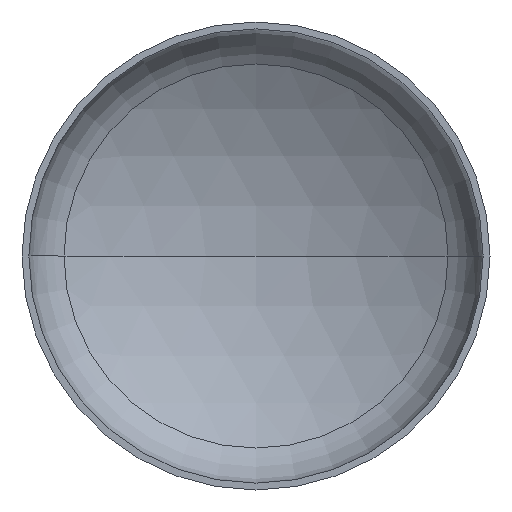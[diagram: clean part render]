
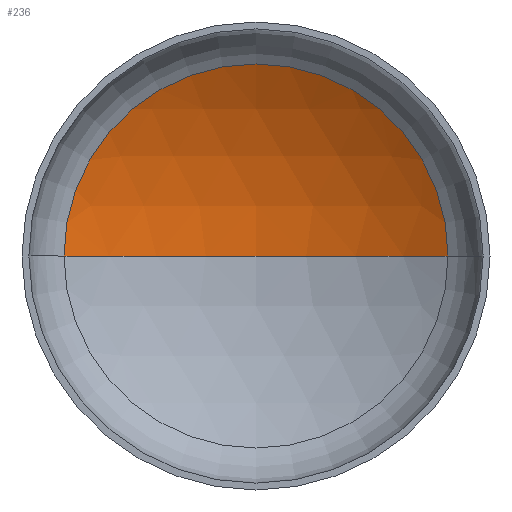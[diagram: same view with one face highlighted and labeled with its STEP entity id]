
A CAD part, front view. The second image highlights one B-rep face of the part: STEP entity #236.
In plain terms, the highlighted spherical face has radius 6400 mm.
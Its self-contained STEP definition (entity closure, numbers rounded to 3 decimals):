
#14 = VERTEX_POINT ( 'NONE', #92 ) ;
#15 = AXIS2_PLACEMENT_3D ( 'NONE', #313, #307, #290 ) ;
#32 = AXIS2_PLACEMENT_3D ( 'NONE', #378, #245, #397 ) ;
#38 = AXIS2_PLACEMENT_3D ( 'NONE', #121, #317, #166 ) ;
#39 = AXIS2_PLACEMENT_3D ( 'NONE', #310, #108, #266 ) ;
#46 = ORIENTED_EDGE ( 'NONE', *, *, #95, .T. ) ;
#60 = EDGE_LOOP ( 'NONE', ( #113, #46, #161 ) ) ;
#84 = FACE_OUTER_BOUND ( 'NONE', #60, .T. ) ;
#87 = VERTEX_POINT ( 'NONE', #253 ) ;
#92 = CARTESIAN_POINT ( 'NONE',  ( 0., 2037.005, 0. ) ) ;
#94 = EDGE_CURVE ( 'NONE', #87, #160, #213, .T. ) ;
#95 = EDGE_CURVE ( 'NONE', #14, #87, #392, .T. ) ;
#98 = EDGE_CURVE ( 'NONE', #14, #160, #205, .T. ) ;
#108 = DIRECTION ( 'NONE',  ( 0., -1., 0. ) ) ;
#113 = ORIENTED_EDGE ( 'NONE', *, *, #98, .F. ) ;
#121 = CARTESIAN_POINT ( 'NONE',  ( 0., -4362.995, 0. ) ) ;
#160 = VERTEX_POINT ( 'NONE', #244 ) ;
#161 = ORIENTED_EDGE ( 'NONE', *, *, #94, .T. ) ;
#166 = DIRECTION ( 'NONE',  ( -1., 0., 0. ) ) ;
#188 = SPHERICAL_SURFACE ( 'NONE', #15, 6400. ) ;
#205 = CIRCLE ( 'NONE', #32, 6400. ) ;
#213 = CIRCLE ( 'NONE', #39, 3282.94 ) ;
#236 = ADVANCED_FACE ( 'NONE', ( #84 ), #188, .F. ) ;
#244 = CARTESIAN_POINT ( 'NONE',  ( -3282.94, 1130.848, 0. ) ) ;
#245 = DIRECTION ( 'NONE',  ( 0., 0., 1. ) ) ;
#253 = CARTESIAN_POINT ( 'NONE',  ( 3282.94, 1130.848, 0. ) ) ;
#266 = DIRECTION ( 'NONE',  ( 1., 0., 0. ) ) ;
#290 = DIRECTION ( 'NONE',  ( -1., 0., 0. ) ) ;
#307 = DIRECTION ( 'NONE',  ( 0., 0., -1. ) ) ;
#310 = CARTESIAN_POINT ( 'NONE',  ( 0., 1130.848, 0. ) ) ;
#313 = CARTESIAN_POINT ( 'NONE',  ( 0., -4362.995, 0. ) ) ;
#317 = DIRECTION ( 'NONE',  ( 0., 0., -1. ) ) ;
#378 = CARTESIAN_POINT ( 'NONE',  ( 0., -4362.995, 0. ) ) ;
#392 = CIRCLE ( 'NONE', #38, 6400. ) ;
#397 = DIRECTION ( 'NONE',  ( 1., 0., 0. ) ) ;
